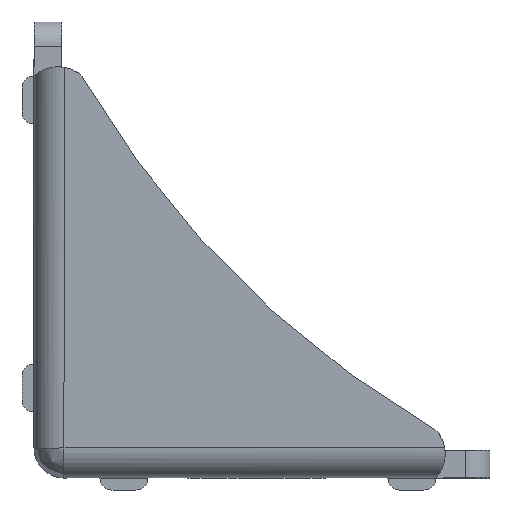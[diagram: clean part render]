
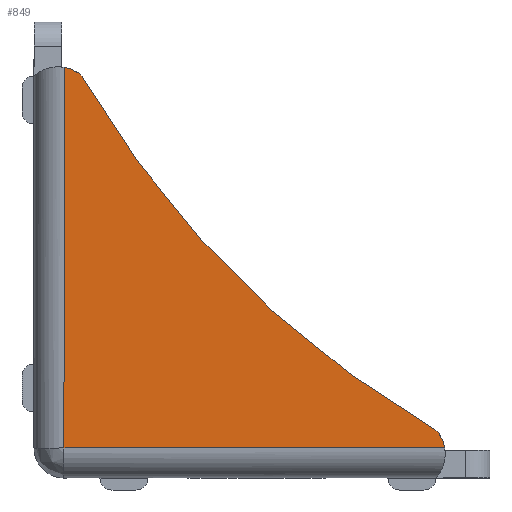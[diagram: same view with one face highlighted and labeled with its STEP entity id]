
A CAD part, front view. The second image highlights one B-rep face of the part: STEP entity #849.
In plain terms, the highlighted planar face has unit normal (0, -1, 0).
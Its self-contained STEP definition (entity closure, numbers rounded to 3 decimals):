
#23 = EDGE_CURVE ( 'NONE', #938, #1778, #56, .T. ) ;
#56 = CIRCLE ( 'NONE', #1495, 80.95 ) ;
#147 = DIRECTION ( 'NONE',  ( 1., 0., 0. ) ) ;
#161 = LINE ( 'NONE', #2130, #636 ) ;
#191 = EDGE_CURVE ( 'NONE', #2098, #1474, #161, .T. ) ;
#284 = DIRECTION ( 'NONE',  ( 0., 1., 0. ) ) ;
#302 = CARTESIAN_POINT ( 'NONE',  ( 14.5, -17.5, 4. ) ) ;
#367 = CARTESIAN_POINT ( 'NONE',  ( -15., -17.5, 33.5 ) ) ;
#454 = VERTEX_POINT ( 'NONE', #1678 ) ;
#468 = VECTOR ( 'NONE', #147, 1000. ) ;
#475 = ORIENTED_EDGE ( 'NONE', *, *, #477, .T. ) ;
#477 = EDGE_CURVE ( 'NONE', #1778, #2098, #2669, .T. ) ;
#493 = AXIS2_PLACEMENT_3D ( 'NONE', #953, #2395, #1166 ) ;
#542 = LINE ( 'NONE', #2434, #468 ) ;
#636 = VECTOR ( 'NONE', #1304, 1000. ) ;
#797 = CARTESIAN_POINT ( 'NONE',  ( -17., -17.5, 31.264 ) ) ;
#849 = ADVANCED_FACE ( 'NONE', ( #2268 ), #2595, .T. ) ;
#896 = AXIS2_PLACEMENT_3D ( 'NONE', #797, #2258, #1012 ) ;
#938 = VERTEX_POINT ( 'NONE', #302 ) ;
#950 = CARTESIAN_POINT ( 'NONE',  ( -17.134, -17.5, 1.866 ) ) ;
#953 = CARTESIAN_POINT ( 'NONE',  ( 12.264, -17.5, 2. ) ) ;
#1012 = DIRECTION ( 'NONE',  ( 0., 0., -1. ) ) ;
#1166 = DIRECTION ( 'NONE',  ( 0., 0., -1. ) ) ;
#1170 = EDGE_CURVE ( 'NONE', #1474, #454, #542, .T. ) ;
#1302 = ORIENTED_EDGE ( 'NONE', *, *, #191, .T. ) ;
#1304 = DIRECTION ( 'NONE',  ( 0., 0., -1. ) ) ;
#1367 = DIRECTION ( 'NONE',  ( 1., 0., 0. ) ) ;
#1474 = VERTEX_POINT ( 'NONE', #2106 ) ;
#1495 = AXIS2_PLACEMENT_3D ( 'NONE', #1743, #284, #1545 ) ;
#1545 = DIRECTION ( 'NONE',  ( 0., 0., -1. ) ) ;
#1678 = CARTESIAN_POINT ( 'NONE',  ( 15.222, -17.5, 2.5 ) ) ;
#1743 = CARTESIAN_POINT ( 'NONE',  ( 55.058, -17.5, 74.058 ) ) ;
#1778 = VERTEX_POINT ( 'NONE', #367 ) ;
#1779 = EDGE_LOOP ( 'NONE', ( #2309, #475, #1302, #1872, #2515 ) ) ;
#1872 = ORIENTED_EDGE ( 'NONE', *, *, #1170, .T. ) ;
#2044 = CIRCLE ( 'NONE', #493, 3. ) ;
#2091 = AXIS2_PLACEMENT_3D ( 'NONE', #950, #2600, #1367 ) ;
#2098 = VERTEX_POINT ( 'NONE', #2446 ) ;
#2106 = CARTESIAN_POINT ( 'NONE',  ( -16.5, -17.5, 2.5 ) ) ;
#2130 = CARTESIAN_POINT ( 'NONE',  ( -16.5, -17.5, 18.361 ) ) ;
#2258 = DIRECTION ( 'NONE',  ( 0., -1., 0. ) ) ;
#2268 = FACE_OUTER_BOUND ( 'NONE', #1779, .T. ) ;
#2309 = ORIENTED_EDGE ( 'NONE', *, *, #23, .T. ) ;
#2395 = DIRECTION ( 'NONE',  ( 0., -1., 0. ) ) ;
#2434 = CARTESIAN_POINT ( 'NONE',  ( -0.618, -17.5, 2.5 ) ) ;
#2446 = CARTESIAN_POINT ( 'NONE',  ( -16.5, -17.5, 34.222 ) ) ;
#2515 = ORIENTED_EDGE ( 'NONE', *, *, #2548, .T. ) ;
#2548 = EDGE_CURVE ( 'NONE', #454, #938, #2044, .T. ) ;
#2595 = PLANE ( 'NONE',  #2091 ) ;
#2600 = DIRECTION ( 'NONE',  ( 0., -1., 0. ) ) ;
#2669 = CIRCLE ( 'NONE', #896, 3. ) ;
